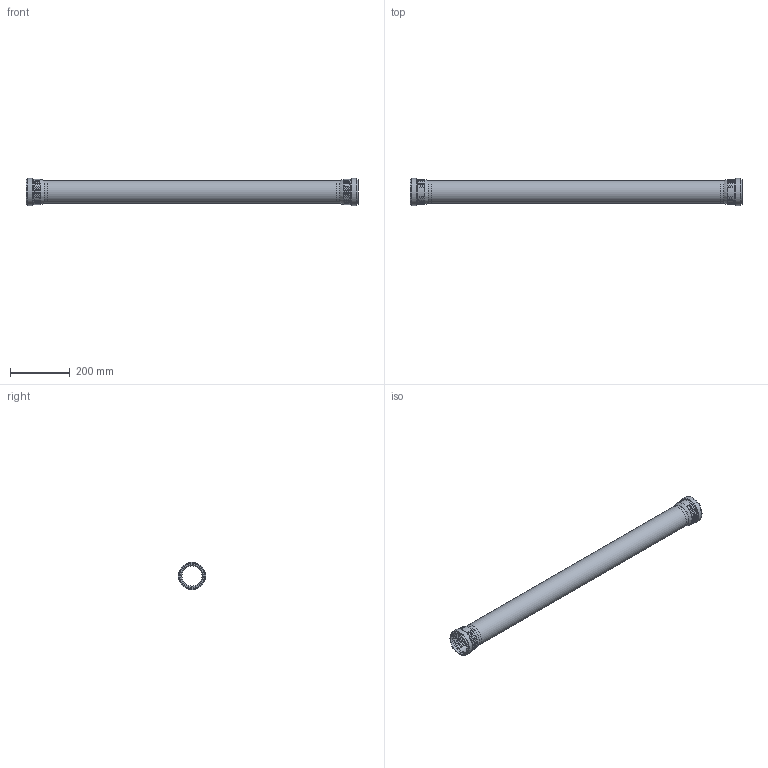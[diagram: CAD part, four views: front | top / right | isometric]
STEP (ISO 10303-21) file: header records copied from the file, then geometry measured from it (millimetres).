
FILE_DESCRIPTION(/* description */ (''),/* implementation_level */ '2;1');
FILE_NAME(/* name */ 'H:\Geberit-Teile\Export\PP_Rohr 2 Muffen_TEST\stp\393311.stp',/* time_stamp */ '2017-02-13T17:10:10+01:00',/* author */ ('seihe2'),/* organization */ (''),/* preprocessor_version */ 'ST-DEVELOPER v15.2',/* originating_system */ 'Autodesk Inventor 2014',/* authorisation */ '');
FILE_SCHEMA (('AUTOMOTIVE_DESIGN { 1 0 10303 214 3 1 1 }'));
Length unit declared in the file: millimetre
Products named in the file (1): 393311
Bounding box: 1111.4 x 91 x 91 mm (x, y, z)
Volume: 982818.2 mm3; surface area: 532190.2 mm2
Topology: 3 solids, 3 shells, 70 faces, 154 edges, 108 vertices
Faces by surface type: torus 32, cylinder 18, plane 14, bspline 4, cone 2
Full cylindrical faces by diameter (mm): 67.6 x3, 75.2 x3, 76 x2, 77.6 x2, 82.8 x2, 84.4 x2, 84.8 x2, 91 x2
Entity records: 4144 total; most frequent: CARTESIAN_POINT 2699, ORIENTED_EDGE 248, DIRECTION 238, EDGE_LOOP 124, EDGE_CURVE 124, AXIS2_PLACEMENT_3D 119, VERTEX_POINT 108, STYLED_ITEM 73
